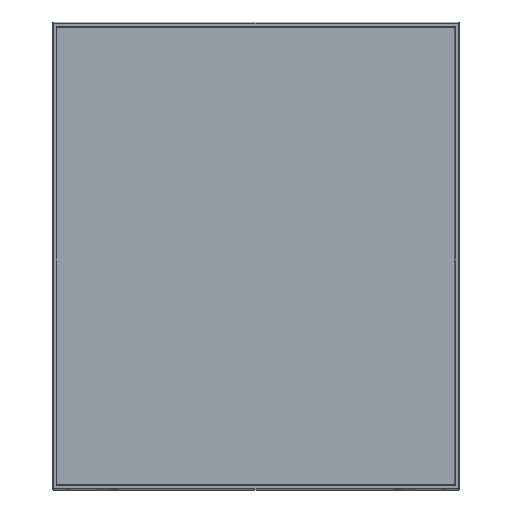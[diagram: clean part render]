
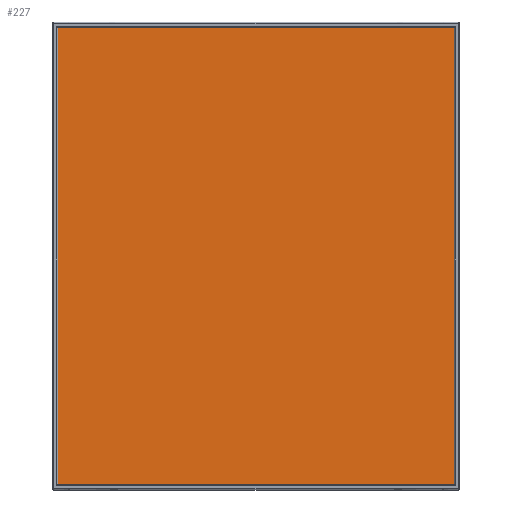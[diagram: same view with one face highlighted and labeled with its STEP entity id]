
A CAD part, top view. The second image highlights one B-rep face of the part: STEP entity #227.
In plain terms, the highlighted free-form (B-spline) face has degree [1, 1] with [2, 2] control points.
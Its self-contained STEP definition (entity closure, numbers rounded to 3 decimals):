
#227=ADVANCED_FACE('',(#317),#1151,.T.);
#317=FACE_OUTER_BOUND('',#409,.T.);
#409=EDGE_LOOP('',(#717,#718,#719,#720));
#717=ORIENTED_EDGE('',*,*,#944,.F.);
#718=ORIENTED_EDGE('',*,*,#936,.T.);
#719=ORIENTED_EDGE('',*,*,#943,.T.);
#720=ORIENTED_EDGE('',*,*,#938,.F.);
#936=EDGE_CURVE('',#1066,#1068,#1274,.T.);
#938=EDGE_CURVE('',#1069,#1071,#1276,.T.);
#943=EDGE_CURVE('',#1068,#1071,#1281,.T.);
#944=EDGE_CURVE('',#1066,#1069,#1282,.T.);
#1066=VERTEX_POINT('',#5847);
#1068=VERTEX_POINT('',#5849);
#1069=VERTEX_POINT('',#5850);
#1071=VERTEX_POINT('',#5852);
#1151=B_SPLINE_SURFACE_WITH_KNOTS('',1,1,((#5838,#5839),(#5840,#5841)),.UNSPECIFIED.,
.F.,.F.,.F.,(2,2),(2,2),(0.,1.),(0.,1.),.UNSPECIFIED.);
#1274=B_SPLINE_CURVE_WITH_KNOTS('',1,(#5804,#5805),.UNSPECIFIED.,.F.,.F.,
(2,2),(0.,1.),.UNSPECIFIED.);
#1276=B_SPLINE_CURVE_WITH_KNOTS('',1,(#5808,#5809),.UNSPECIFIED.,.F.,.F.,
(2,2),(0.,1.),.UNSPECIFIED.);
#1281=B_SPLINE_CURVE_WITH_KNOTS('',1,(#5818,#5819),.UNSPECIFIED.,.F.,.F.,
(2,2),(0.,1.),.UNSPECIFIED.);
#1282=B_SPLINE_CURVE_WITH_KNOTS('',1,(#5820,#5821),.UNSPECIFIED.,.F.,.F.,
(2,2),(0.,1.),.UNSPECIFIED.);
#5804=CARTESIAN_POINT('',(268.49,311.07,6.081));
#5805=CARTESIAN_POINT('',(-266.51,311.07,6.081));
#5808=CARTESIAN_POINT('',(268.49,-311.155,6.081));
#5809=CARTESIAN_POINT('',(-266.51,-311.155,6.081));
#5818=CARTESIAN_POINT('',(-266.51,311.07,6.081));
#5819=CARTESIAN_POINT('',(-266.51,-311.155,6.081));
#5820=CARTESIAN_POINT('',(268.49,311.07,6.081));
#5821=CARTESIAN_POINT('',(268.49,-311.155,6.081));
#5838=CARTESIAN_POINT('',(268.49,311.07,6.081));
#5839=CARTESIAN_POINT('',(268.49,-311.155,6.081));
#5840=CARTESIAN_POINT('',(-266.51,311.07,6.081));
#5841=CARTESIAN_POINT('',(-266.51,-311.155,6.081));
#5847=CARTESIAN_POINT('',(268.49,311.07,6.081));
#5849=CARTESIAN_POINT('',(-266.51,311.07,6.081));
#5850=CARTESIAN_POINT('',(268.49,-311.155,6.081));
#5852=CARTESIAN_POINT('',(-266.51,-311.155,6.081));
